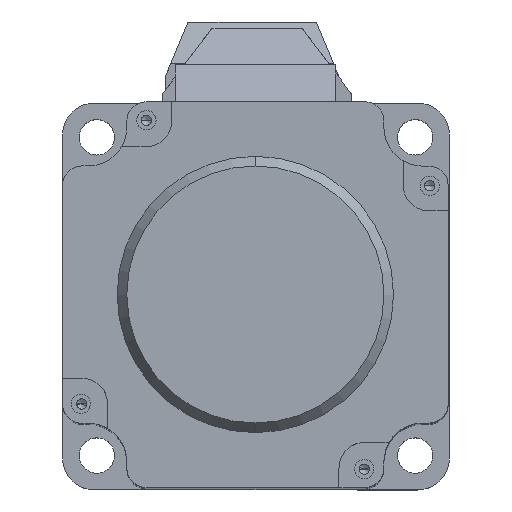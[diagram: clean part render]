
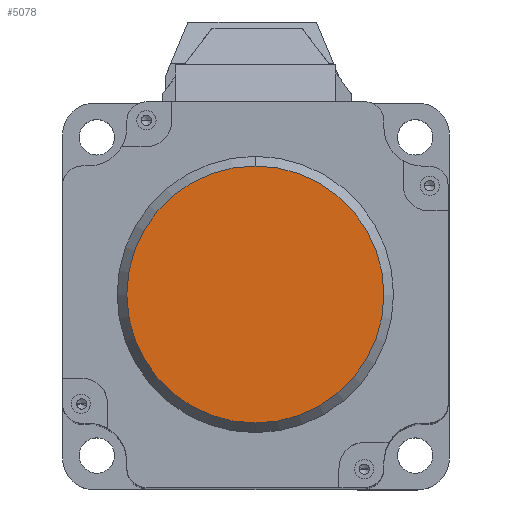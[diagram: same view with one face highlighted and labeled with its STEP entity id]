
A CAD part, top view. The second image highlights one B-rep face of the part: STEP entity #5078.
In plain terms, the highlighted planar face has unit normal (0, 0, 1).
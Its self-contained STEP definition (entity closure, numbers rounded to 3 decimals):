
#293 = EDGE_CURVE ( 'NONE', #18101, #1467, #1943, .T. ) ;
#931 = AXIS2_PLACEMENT_3D ( 'NONE', #11537, #5427, #18504 ) ;
#1467 = VERTEX_POINT ( 'NONE', #14069 ) ;
#1943 = CIRCLE ( 'NONE', #931, 20. ) ;
#1962 = CARTESIAN_POINT ( 'NONE',  ( 0., 0., 20. ) ) ;
#2258 = ORIENTED_EDGE ( 'NONE', *, *, #10166, .F. ) ;
#5078 = ADVANCED_FACE ( 'NONE', ( #9375 ), #7672, .T. ) ;
#5427 = DIRECTION ( 'NONE',  ( 0., 0., -1. ) ) ;
#7327 = AXIS2_PLACEMENT_3D ( 'NONE', #12424, #18690, #12489 ) ;
#7672 = PLANE ( 'NONE',  #7327 ) ;
#8336 = DIRECTION ( 'NONE',  ( 0., 1., 0. ) ) ;
#8398 = ORIENTED_EDGE ( 'NONE', *, *, #293, .F. ) ;
#9375 = FACE_OUTER_BOUND ( 'NONE', #16284, .T. ) ;
#10166 = EDGE_CURVE ( 'NONE', #1467, #18101, #14413, .T. ) ;
#10371 = AXIS2_PLACEMENT_3D ( 'NONE', #1962, #13038, #8336 ) ;
#11537 = CARTESIAN_POINT ( 'NONE',  ( 0., 0., 20. ) ) ;
#12424 = CARTESIAN_POINT ( 'NONE',  ( 0., 0., 20. ) ) ;
#12489 = DIRECTION ( 'NONE',  ( 0., -1., 0. ) ) ;
#13038 = DIRECTION ( 'NONE',  ( 0., 0., -1. ) ) ;
#13492 = CARTESIAN_POINT ( 'NONE',  ( 0., -20., 20. ) ) ;
#14069 = CARTESIAN_POINT ( 'NONE',  ( 0., 20., 20. ) ) ;
#14413 = CIRCLE ( 'NONE', #10371, 20. ) ;
#16284 = EDGE_LOOP ( 'NONE', ( #2258, #8398 ) ) ;
#18101 = VERTEX_POINT ( 'NONE', #13492 ) ;
#18504 = DIRECTION ( 'NONE',  ( 0., 1., 0. ) ) ;
#18690 = DIRECTION ( 'NONE',  ( 0., 0., 1. ) ) ;
